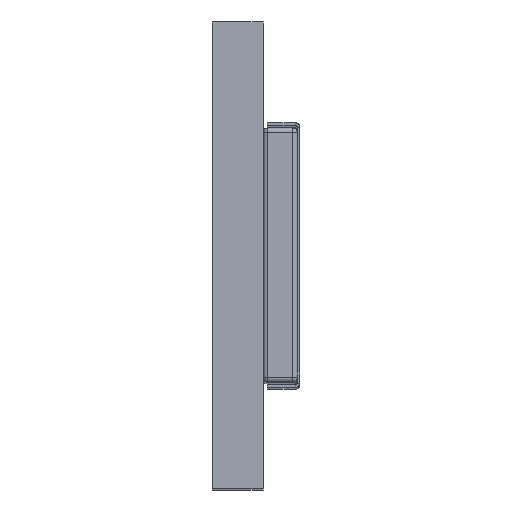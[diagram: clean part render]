
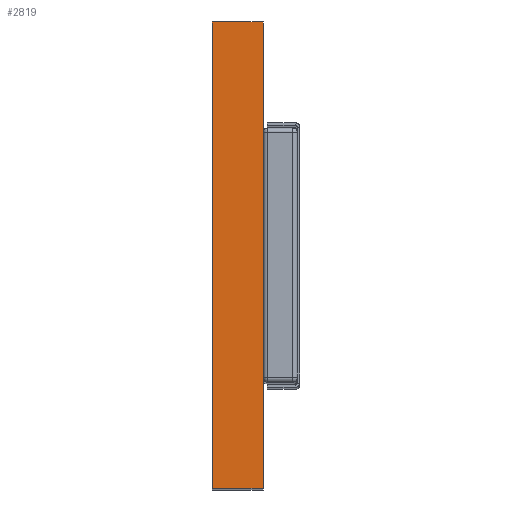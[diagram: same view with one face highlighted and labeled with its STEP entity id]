
A CAD part, top view. The second image highlights one B-rep face of the part: STEP entity #2819.
In plain terms, the highlighted planar face has unit normal (0, 0, 1).
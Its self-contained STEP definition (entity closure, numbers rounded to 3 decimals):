
#10 = VERTEX_POINT ( 'NONE', #926 ) ;
#317 = CARTESIAN_POINT ( 'NONE',  ( 0., 0., 128. ) ) ;
#321 = PLANE ( 'NONE',  #2689 ) ;
#412 = CARTESIAN_POINT ( 'NONE',  ( 0., 0., 128. ) ) ;
#622 = VERTEX_POINT ( 'NONE', #3061 ) ;
#783 = DIRECTION ( 'NONE',  ( 0., 0., -1. ) ) ;
#796 = DIRECTION ( 'NONE',  ( -1., 0., 0. ) ) ;
#812 = EDGE_LOOP ( 'NONE', ( #1202, #1269, #2749, #1007 ) ) ;
#910 = VERTEX_POINT ( 'NONE', #2288 ) ;
#926 = CARTESIAN_POINT ( 'NONE',  ( 6., 55., 128. ) ) ;
#930 = DIRECTION ( 'NONE',  ( 0., 1., 0. ) ) ;
#966 = VECTOR ( 'NONE', #1845, 1000. ) ;
#1007 = ORIENTED_EDGE ( 'NONE', *, *, #1874, .T. ) ;
#1015 = EDGE_CURVE ( 'NONE', #622, #10, #2242, .T. ) ;
#1066 = DIRECTION ( 'NONE',  ( -1., 0., 0. ) ) ;
#1156 = EDGE_CURVE ( 'NONE', #3001, #910, #2343, .T. ) ;
#1202 = ORIENTED_EDGE ( 'NONE', *, *, #1156, .T. ) ;
#1269 = ORIENTED_EDGE ( 'NONE', *, *, #1445, .T. ) ;
#1445 = EDGE_CURVE ( 'NONE', #910, #622, #2240, .T. ) ;
#1667 = VECTOR ( 'NONE', #1066, 1000. ) ;
#1813 = CARTESIAN_POINT ( 'NONE',  ( 0., 55., 128. ) ) ;
#1845 = DIRECTION ( 'NONE',  ( 1., 0., 0. ) ) ;
#1867 = VECTOR ( 'NONE', #2214, 1000. ) ;
#1874 = EDGE_CURVE ( 'NONE', #10, #3001, #2301, .T. ) ;
#2031 = CARTESIAN_POINT ( 'NONE',  ( 0., 55., 128. ) ) ;
#2214 = DIRECTION ( 'NONE',  ( 0., -1., 0. ) ) ;
#2240 = LINE ( 'NONE', #412, #966 ) ;
#2242 = LINE ( 'NONE', #2364, #2798 ) ;
#2288 = CARTESIAN_POINT ( 'NONE',  ( 0., 0., 128. ) ) ;
#2301 = LINE ( 'NONE', #2031, #1667 ) ;
#2343 = LINE ( 'NONE', #317, #1867 ) ;
#2364 = CARTESIAN_POINT ( 'NONE',  ( 6., 0., 128. ) ) ;
#2403 = FACE_OUTER_BOUND ( 'NONE', #812, .T. ) ;
#2689 = AXIS2_PLACEMENT_3D ( 'NONE', #2699, #783, #796 ) ;
#2699 = CARTESIAN_POINT ( 'NONE',  ( 0., 0., 128. ) ) ;
#2749 = ORIENTED_EDGE ( 'NONE', *, *, #1015, .T. ) ;
#2798 = VECTOR ( 'NONE', #930, 1000. ) ;
#2819 = ADVANCED_FACE ( 'NONE', ( #2403 ), #321, .F. ) ;
#3001 = VERTEX_POINT ( 'NONE', #1813 ) ;
#3061 = CARTESIAN_POINT ( 'NONE',  ( 6., 0., 128. ) ) ;
